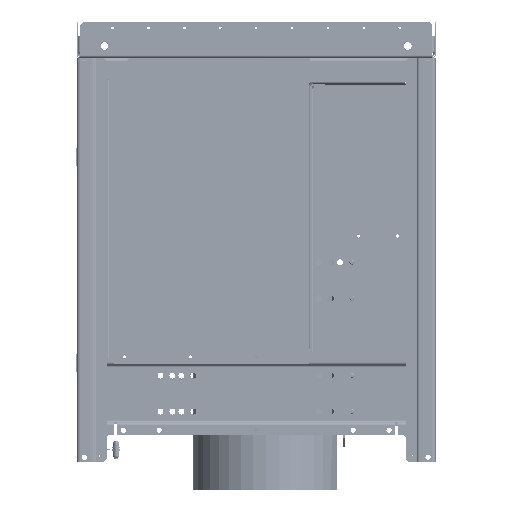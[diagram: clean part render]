
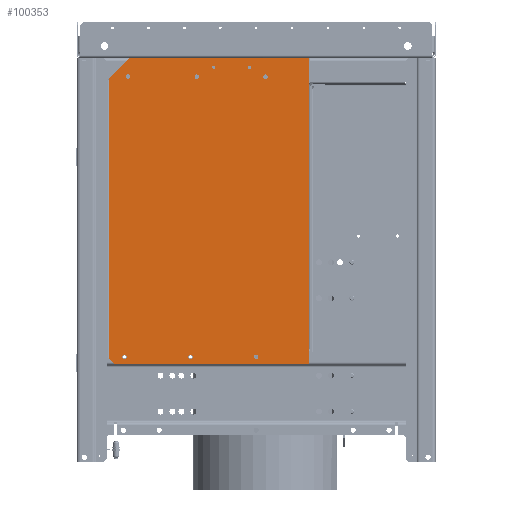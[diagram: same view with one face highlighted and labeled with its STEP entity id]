
A CAD part, left-side view. The second image highlights one B-rep face of the part: STEP entity #100353.
In plain terms, the highlighted planar face has unit normal (-1, 0, 0) as drawn and (0, 0, -1) by its records, which use the part's own axes.
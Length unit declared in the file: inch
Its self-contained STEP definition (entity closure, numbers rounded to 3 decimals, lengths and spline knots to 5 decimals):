
#99456=CARTESIAN_POINT('',(-11.25,18.79402,-0.0396));
#99457=DIRECTION('',(0.,0.,-1.));
#99458=DIRECTION('',(-1.,0.,0.));
#99459=AXIS2_PLACEMENT_3D('',#99456,#99457,#99458);
#99461=CARTESIAN_POINT('',(-11.25,18.79402,-0.0396));
#99462=DIRECTION('',(0.,0.,-1.));
#99463=DIRECTION('',(1.,0.,0.));
#99464=AXIS2_PLACEMENT_3D('',#99461,#99462,#99463);
#99466=CARTESIAN_POINT('',(-11.25,13.04402,-0.0396));
#99467=DIRECTION('',(0.,0.,-1.));
#99468=DIRECTION('',(-1.,0.,0.));
#99469=AXIS2_PLACEMENT_3D('',#99466,#99467,#99468);
#99471=CARTESIAN_POINT('',(-11.25,13.04402,-0.0396));
#99472=DIRECTION('',(0.,0.,-1.));
#99473=DIRECTION('',(1.,0.,0.));
#99474=AXIS2_PLACEMENT_3D('',#99471,#99472,#99473);
#99476=CARTESIAN_POINT('',(-11.25,7.29402,-0.0396));
#99477=DIRECTION('',(0.,0.,-1.));
#99478=DIRECTION('',(-1.,0.,0.));
#99479=AXIS2_PLACEMENT_3D('',#99476,#99477,#99478);
#99481=CARTESIAN_POINT('',(-11.25,7.29402,-0.0396));
#99482=DIRECTION('',(0.,0.,-1.));
#99483=DIRECTION('',(1.,0.,0.));
#99484=AXIS2_PLACEMENT_3D('',#99481,#99482,#99483);
#99486=CARTESIAN_POINT('',(12.18,19.08402,-0.0396));
#99487=DIRECTION('',(0.,0.,-1.));
#99488=DIRECTION('',(-1.,0.,0.));
#99489=AXIS2_PLACEMENT_3D('',#99486,#99487,#99488);
#99491=CARTESIAN_POINT('',(12.18,19.08402,-0.0396));
#99492=DIRECTION('',(0.,0.,-1.));
#99493=DIRECTION('',(1.,0.,0.));
#99494=AXIS2_PLACEMENT_3D('',#99491,#99492,#99493);
#99496=CARTESIAN_POINT('',(12.18,13.58402,-0.0396));
#99497=DIRECTION('',(0.,0.,-1.));
#99498=DIRECTION('',(-1.,0.,0.));
#99499=AXIS2_PLACEMENT_3D('',#99496,#99497,#99498);
#99501=CARTESIAN_POINT('',(12.18,13.58402,-0.0396));
#99502=DIRECTION('',(0.,0.,-1.));
#99503=DIRECTION('',(1.,0.,0.));
#99504=AXIS2_PLACEMENT_3D('',#99501,#99502,#99503);
#99506=CARTESIAN_POINT('',(12.18,8.08402,-0.0396));
#99507=DIRECTION('',(0.,0.,-1.));
#99508=DIRECTION('',(-1.,0.,0.));
#99509=AXIS2_PLACEMENT_3D('',#99506,#99507,#99508);
#99511=CARTESIAN_POINT('',(12.18,8.08402,-0.0396));
#99512=DIRECTION('',(0.,0.,-1.));
#99513=DIRECTION('',(1.,0.,0.));
#99514=AXIS2_PLACEMENT_3D('',#99511,#99512,#99513);
#99516=CARTESIAN_POINT('',(-12.04,11.63322,-0.0396));
#99517=DIRECTION('',(0.,0.,1.));
#99518=DIRECTION('',(-1.,0.,0.));
#99519=AXIS2_PLACEMENT_3D('',#99516,#99517,#99518);
#99521=CARTESIAN_POINT('',(-12.04,11.63322,-0.0396));
#99522=DIRECTION('',(0.,0.,1.));
#99523=DIRECTION('',(1.,0.,0.));
#99524=AXIS2_PLACEMENT_3D('',#99521,#99522,#99523);
#99526=CARTESIAN_POINT('',(-12.04,8.63322,-0.0396));
#99527=DIRECTION('',(0.,0.,1.));
#99528=DIRECTION('',(-1.,0.,0.));
#99529=AXIS2_PLACEMENT_3D('',#99526,#99527,#99528);
#99531=CARTESIAN_POINT('',(-12.04,8.63322,-0.0396));
#99532=DIRECTION('',(0.,0.,1.));
#99533=DIRECTION('',(1.,0.,0.));
#99534=AXIS2_PLACEMENT_3D('',#99531,#99532,#99533);
#99536=DIRECTION('',(-0.707,-0.707,0.));
#99537=VECTOR('',#99536,2.35834);
#99538=CARTESIAN_POINT('',(-11.1124,20.34442,-0.0396));
#99539=LINE('',#99538,#99537);
#99540=DIRECTION('',(0.,-1.,0.));
#99541=VECTOR('',#99540,14.9836);
#99542=CARTESIAN_POINT('',(-12.78,18.67682,-0.0396));
#99543=LINE('',#99542,#99541);
#99544=DIRECTION('',(1.,0.,0.));
#99545=VECTOR('',#99544,2.2);
#99546=CARTESIAN_POINT('',(-12.78,3.69322,-0.0396));
#99547=LINE('',#99546,#99545);
#99548=DIRECTION('',(-1.,0.,0.));
#99549=VECTOR('',#99548,1.25);
#99550=CARTESIAN_POINT('',(12.78,3.69322,-0.0396));
#99551=LINE('',#99550,#99549);
#99552=DIRECTION('',(0.,1.,0.));
#99553=VECTOR('',#99552,16.2336);
#99554=CARTESIAN_POINT('',(12.78,3.69322,-0.0396));
#99555=LINE('',#99554,#99553);
#99556=DIRECTION('',(0.707,-0.707,0.));
#99557=VECTOR('',#99556,0.59058);
#99558=CARTESIAN_POINT('',(12.3624,20.34442,-0.0396));
#99559=LINE('',#99558,#99557);
#99847=DIRECTION('',(-1.,0.,0.));
#99848=VECTOR('',#99847,23.4748);
#99849=CARTESIAN_POINT('',(12.3624,20.34442,-0.0396));
#99850=LINE('',#99849,#99848);
#99999=DIRECTION('',(1.,0.,0.));
#100000=VECTOR('',#99999,22.11);
#100001=CARTESIAN_POINT('',(-10.58,3.69322,-0.0396));
#100002=LINE('',#100001,#100000);
#100012=CARTESIAN_POINT('',(-11.44,18.79402,-0.0396));
#100013=CARTESIAN_POINT('',(-11.06,18.79402,-0.0396));
#100014=VERTEX_POINT('',#100012);
#100015=VERTEX_POINT('',#100013);
#100020=CARTESIAN_POINT('',(-11.44,13.04402,-0.0396));
#100021=CARTESIAN_POINT('',(-11.06,13.04402,-0.0396));
#100022=VERTEX_POINT('',#100020);
#100023=VERTEX_POINT('',#100021);
#100028=CARTESIAN_POINT('',(-11.44,7.29402,-0.0396));
#100029=CARTESIAN_POINT('',(-11.06,7.29402,-0.0396));
#100030=VERTEX_POINT('',#100028);
#100031=VERTEX_POINT('',#100029);
#100036=CARTESIAN_POINT('',(11.99,19.08402,-0.0396));
#100037=CARTESIAN_POINT('',(12.37,19.08402,-0.0396));
#100038=VERTEX_POINT('',#100036);
#100039=VERTEX_POINT('',#100037);
#100044=CARTESIAN_POINT('',(11.99,13.58402,-0.0396));
#100045=CARTESIAN_POINT('',(12.37,13.58402,-0.0396));
#100046=VERTEX_POINT('',#100044);
#100047=VERTEX_POINT('',#100045);
#100052=CARTESIAN_POINT('',(11.99,8.08402,-0.0396));
#100053=CARTESIAN_POINT('',(12.37,8.08402,-0.0396));
#100054=VERTEX_POINT('',#100052);
#100055=VERTEX_POINT('',#100053);
#100100=CARTESIAN_POINT('',(-12.78,3.69322,-0.0396));
#100101=CARTESIAN_POINT('',(-10.58,3.69322,-0.0396));
#100102=VERTEX_POINT('',#100100);
#100103=VERTEX_POINT('',#100101);
#100104=CARTESIAN_POINT('',(12.78,3.69322,-0.0396));
#100105=CARTESIAN_POINT('',(11.53,3.69322,-0.0396));
#100106=VERTEX_POINT('',#100104);
#100107=VERTEX_POINT('',#100105);
#100124=CARTESIAN_POINT('',(-12.18,11.63322,-0.0396));
#100125=CARTESIAN_POINT('',(-11.9,11.63322,-0.0396));
#100126=VERTEX_POINT('',#100124);
#100127=VERTEX_POINT('',#100125);
#100132=CARTESIAN_POINT('',(-12.18,8.63322,-0.0396));
#100133=CARTESIAN_POINT('',(-11.9,8.63322,-0.0396));
#100134=VERTEX_POINT('',#100132);
#100135=VERTEX_POINT('',#100133);
#100160=CARTESIAN_POINT('',(-11.1124,20.34442,-0.0396));
#100161=CARTESIAN_POINT('',(-12.78,18.67682,-0.0396));
#100162=VERTEX_POINT('',#100160);
#100163=VERTEX_POINT('',#100161);
#100164=CARTESIAN_POINT('',(12.3624,20.34442,-0.0396));
#100165=CARTESIAN_POINT('',(12.78,19.92682,-0.0396));
#100166=VERTEX_POINT('',#100164);
#100167=VERTEX_POINT('',#100165);
#100284=CARTESIAN_POINT('',(0.,0.,-0.0396));
#100285=DIRECTION('',(0.,0.,1.));
#100286=DIRECTION('',(1.,0.,0.));
#100287=AXIS2_PLACEMENT_3D('',#100284,#100285,#100286);
#100288=PLANE('',#100287);
#100290=ORIENTED_EDGE('',*,*,#100289,.T.);
#100292=ORIENTED_EDGE('',*,*,#100291,.T.);
#100294=ORIENTED_EDGE('',*,*,#100293,.T.);
#100296=ORIENTED_EDGE('',*,*,#100295,.T.);
#100298=ORIENTED_EDGE('',*,*,#100297,.F.);
#100300=ORIENTED_EDGE('',*,*,#100299,.T.);
#100302=ORIENTED_EDGE('',*,*,#100301,.F.);
#100304=ORIENTED_EDGE('',*,*,#100303,.T.);
#100305=EDGE_LOOP('',(#100290,#100292,#100294,#100296,#100298,#100300,#100302,
#100304));
#100306=FACE_OUTER_BOUND('',#100305,.F.);
#100308=ORIENTED_EDGE('',*,*,#100307,.T.);
#100310=ORIENTED_EDGE('',*,*,#100309,.T.);
#100311=EDGE_LOOP('',(#100308,#100310));
#100312=FACE_BOUND('',#100311,.F.);
#100314=ORIENTED_EDGE('',*,*,#100313,.T.);
#100316=ORIENTED_EDGE('',*,*,#100315,.T.);
#100317=EDGE_LOOP('',(#100314,#100316));
#100318=FACE_BOUND('',#100317,.F.);
#100320=ORIENTED_EDGE('',*,*,#100319,.T.);
#100322=ORIENTED_EDGE('',*,*,#100321,.T.);
#100323=EDGE_LOOP('',(#100320,#100322));
#100324=FACE_BOUND('',#100323,.F.);
#100326=ORIENTED_EDGE('',*,*,#100325,.T.);
#100328=ORIENTED_EDGE('',*,*,#100327,.T.);
#100329=EDGE_LOOP('',(#100326,#100328));
#100330=FACE_BOUND('',#100329,.F.);
#100332=ORIENTED_EDGE('',*,*,#100331,.T.);
#100334=ORIENTED_EDGE('',*,*,#100333,.T.);
#100335=EDGE_LOOP('',(#100332,#100334));
#100336=FACE_BOUND('',#100335,.F.);
#100338=ORIENTED_EDGE('',*,*,#100337,.F.);
#100340=ORIENTED_EDGE('',*,*,#100339,.F.);
#100341=EDGE_LOOP('',(#100338,#100340));
#100342=FACE_BOUND('',#100341,.F.);
#100344=ORIENTED_EDGE('',*,*,#100343,.F.);
#100346=ORIENTED_EDGE('',*,*,#100345,.F.);
#100347=EDGE_LOOP('',(#100344,#100346));
#100348=FACE_BOUND('',#100347,.F.);
#100349=ORIENTED_EDGE('',*,*,#100264,.T.);
#100350=ORIENTED_EDGE('',*,*,#100278,.T.);
#100351=EDGE_LOOP('',(#100349,#100350));
#100352=FACE_BOUND('',#100351,.F.);
#100353=ADVANCED_FACE('',(#100306,#100312,#100318,#100324,#100330,#100336,
#100342,#100348,#100352),#100288,.F.);
#99460=CIRCLE('',#99459,0.19);
#99465=CIRCLE('',#99464,0.19);
#99470=CIRCLE('',#99469,0.19);
#99475=CIRCLE('',#99474,0.19);
#99480=CIRCLE('',#99479,0.19);
#99485=CIRCLE('',#99484,0.19);
#99490=CIRCLE('',#99489,0.19);
#99495=CIRCLE('',#99494,0.19);
#99500=CIRCLE('',#99499,0.19);
#99505=CIRCLE('',#99504,0.19);
#99510=CIRCLE('',#99509,0.19);
#99515=CIRCLE('',#99514,0.19);
#99520=CIRCLE('',#99519,0.14);
#99525=CIRCLE('',#99524,0.14);
#99530=CIRCLE('',#99529,0.14);
#99535=CIRCLE('',#99534,0.14);
#100264=EDGE_CURVE('',#100014,#100015,#99460,.T.);
#100278=EDGE_CURVE('',#100015,#100014,#99465,.T.);
#100289=EDGE_CURVE('',#100162,#100163,#99539,.T.);
#100291=EDGE_CURVE('',#100163,#100102,#99543,.T.);
#100293=EDGE_CURVE('',#100102,#100103,#99547,.T.);
#100295=EDGE_CURVE('',#100103,#100107,#100002,.T.);
#100297=EDGE_CURVE('',#100106,#100107,#99551,.T.);
#100299=EDGE_CURVE('',#100106,#100167,#99555,.T.);
#100301=EDGE_CURVE('',#100166,#100167,#99559,.T.);
#100303=EDGE_CURVE('',#100166,#100162,#99850,.T.);
#100307=EDGE_CURVE('',#100022,#100023,#99470,.T.);
#100309=EDGE_CURVE('',#100023,#100022,#99475,.T.);
#100313=EDGE_CURVE('',#100030,#100031,#99480,.T.);
#100315=EDGE_CURVE('',#100031,#100030,#99485,.T.);
#100319=EDGE_CURVE('',#100038,#100039,#99490,.T.);
#100321=EDGE_CURVE('',#100039,#100038,#99495,.T.);
#100325=EDGE_CURVE('',#100046,#100047,#99500,.T.);
#100327=EDGE_CURVE('',#100047,#100046,#99505,.T.);
#100331=EDGE_CURVE('',#100054,#100055,#99510,.T.);
#100333=EDGE_CURVE('',#100055,#100054,#99515,.T.);
#100337=EDGE_CURVE('',#100126,#100127,#99520,.T.);
#100339=EDGE_CURVE('',#100127,#100126,#99525,.T.);
#100343=EDGE_CURVE('',#100134,#100135,#99530,.T.);
#100345=EDGE_CURVE('',#100135,#100134,#99535,.T.);
